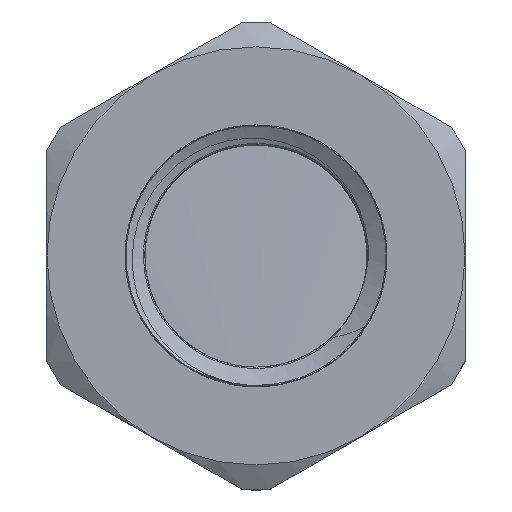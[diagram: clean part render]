
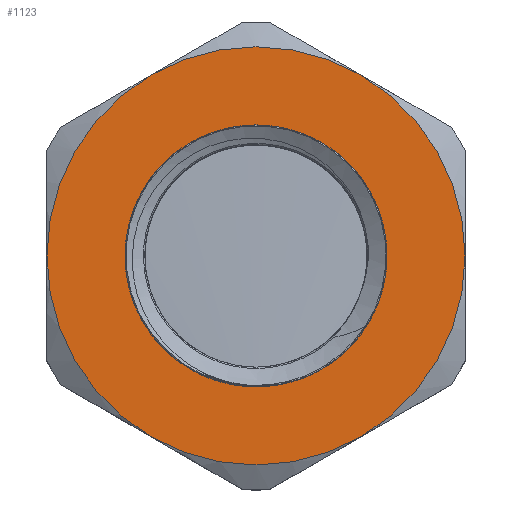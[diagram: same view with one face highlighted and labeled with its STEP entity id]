
A CAD part, top view. The second image highlights one B-rep face of the part: STEP entity #1123.
In plain terms, the highlighted planar face has unit normal (0, 0, 1).
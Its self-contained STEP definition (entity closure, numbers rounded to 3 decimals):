
#240=FACE_BOUND('',#318,.T.);
#248=FACE_OUTER_BOUND('',#317,.T.);
#317=EDGE_LOOP('',(#747,#748,#749,#750,#751,#752));
#318=EDGE_LOOP('',(#753,#754));
#394=CIRCLE('',#1216,10.5);
#395=CIRCLE('',#1217,10.5);
#396=CIRCLE('',#1218,10.5);
#397=CIRCLE('',#1219,10.5);
#398=CIRCLE('',#1220,10.5);
#399=CIRCLE('',#1221,10.5);
#400=CIRCLE('',#1222,6.575);
#401=CIRCLE('',#1223,6.575);
#448=VERTEX_POINT('',#1593);
#449=VERTEX_POINT('',#1594);
#450=VERTEX_POINT('',#1596);
#451=VERTEX_POINT('',#1598);
#452=VERTEX_POINT('',#1600);
#453=VERTEX_POINT('',#1602);
#454=VERTEX_POINT('',#1605);
#455=VERTEX_POINT('',#1606);
#566=EDGE_CURVE('',#448,#449,#394,.T.);
#567=EDGE_CURVE('',#449,#450,#395,.T.);
#568=EDGE_CURVE('',#450,#451,#396,.T.);
#569=EDGE_CURVE('',#451,#452,#397,.T.);
#570=EDGE_CURVE('',#452,#453,#398,.T.);
#571=EDGE_CURVE('',#453,#448,#399,.T.);
#572=EDGE_CURVE('',#454,#455,#400,.T.);
#573=EDGE_CURVE('',#455,#454,#401,.T.);
#747=ORIENTED_EDGE('',*,*,#566,.T.);
#748=ORIENTED_EDGE('',*,*,#567,.T.);
#749=ORIENTED_EDGE('',*,*,#568,.T.);
#750=ORIENTED_EDGE('',*,*,#569,.T.);
#751=ORIENTED_EDGE('',*,*,#570,.T.);
#752=ORIENTED_EDGE('',*,*,#571,.T.);
#753=ORIENTED_EDGE('',*,*,#572,.F.);
#754=ORIENTED_EDGE('',*,*,#573,.F.);
#1109=PLANE('',#1215);
#1123=ADVANCED_FACE('',(#248,#240),#1109,.T.);
#1215=AXIS2_PLACEMENT_3D('',#1592,#1329,#1330);
#1216=AXIS2_PLACEMENT_3D('',#1595,#1331,#1332);
#1217=AXIS2_PLACEMENT_3D('',#1597,#1333,#1334);
#1218=AXIS2_PLACEMENT_3D('',#1599,#1335,#1336);
#1219=AXIS2_PLACEMENT_3D('',#1601,#1337,#1338);
#1220=AXIS2_PLACEMENT_3D('',#1603,#1339,#1340);
#1221=AXIS2_PLACEMENT_3D('',#1604,#1341,#1342);
#1222=AXIS2_PLACEMENT_3D('',#1607,#1343,#1344);
#1223=AXIS2_PLACEMENT_3D('',#1608,#1345,#1346);
#1329=DIRECTION('center_axis',(0.,0.,1.));
#1330=DIRECTION('ref_axis',(1.,0.,0.));
#1331=DIRECTION('center_axis',(0.,0.,1.));
#1332=DIRECTION('ref_axis',(0.,1.,0.));
#1333=DIRECTION('center_axis',(0.,0.,1.));
#1334=DIRECTION('ref_axis',(0.,1.,0.));
#1335=DIRECTION('center_axis',(0.,0.,1.));
#1336=DIRECTION('ref_axis',(0.,1.,0.));
#1337=DIRECTION('center_axis',(0.,0.,1.));
#1338=DIRECTION('ref_axis',(0.,1.,0.));
#1339=DIRECTION('center_axis',(0.,0.,1.));
#1340=DIRECTION('ref_axis',(0.,1.,0.));
#1341=DIRECTION('center_axis',(0.,0.,1.));
#1342=DIRECTION('ref_axis',(0.,1.,0.));
#1343=DIRECTION('center_axis',(0.,0.,1.));
#1344=DIRECTION('ref_axis',(1.,0.,0.));
#1345=DIRECTION('center_axis',(0.,0.,1.));
#1346=DIRECTION('ref_axis',(1.,0.,0.));
#1592=CARTESIAN_POINT('Origin',(0.,-6.575,16.5));
#1593=CARTESIAN_POINT('',(-10.5,0.,16.5));
#1594=CARTESIAN_POINT('',(-5.25,-9.093,16.5));
#1595=CARTESIAN_POINT('Origin',(0.,0.,16.5));
#1596=CARTESIAN_POINT('',(5.25,-9.093,16.5));
#1597=CARTESIAN_POINT('Origin',(0.,0.,16.5));
#1598=CARTESIAN_POINT('',(10.5,0.,16.5));
#1599=CARTESIAN_POINT('Origin',(0.,0.,16.5));
#1600=CARTESIAN_POINT('',(5.25,9.093,16.5));
#1601=CARTESIAN_POINT('Origin',(0.,0.,16.5));
#1602=CARTESIAN_POINT('',(-5.25,9.093,16.5));
#1603=CARTESIAN_POINT('Origin',(0.,0.,16.5));
#1604=CARTESIAN_POINT('Origin',(0.,0.,16.5));
#1605=CARTESIAN_POINT('',(0.,-6.575,16.5));
#1606=CARTESIAN_POINT('',(0.,6.575,16.5));
#1607=CARTESIAN_POINT('Origin',(0.,0.,16.5));
#1608=CARTESIAN_POINT('Origin',(0.,0.,16.5));
